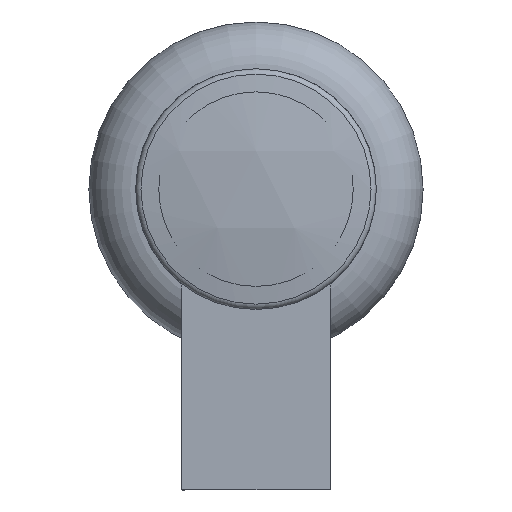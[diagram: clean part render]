
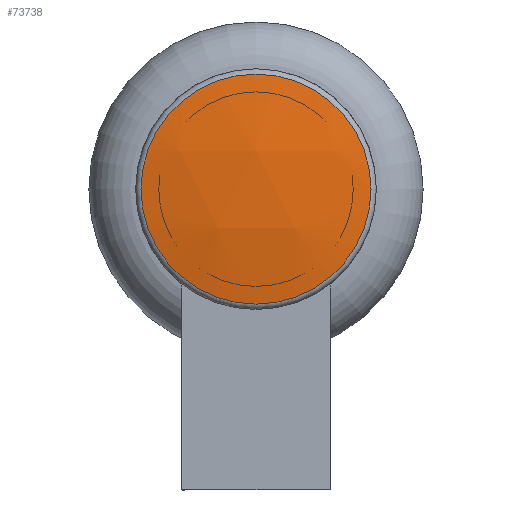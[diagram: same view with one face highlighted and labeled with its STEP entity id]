
A CAD part, front view. The second image highlights one B-rep face of the part: STEP entity #73738.
In plain terms, the highlighted spherical face has radius 168.893 mm.
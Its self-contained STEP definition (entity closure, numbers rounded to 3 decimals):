
#2037=SPHERICAL_SURFACE('',#79982,168.893);
#9423=FACE_OUTER_BOUND('',#13500,.T.);
#13500=EDGE_LOOP('',(#56779));
#31763=CIRCLE('',#79978,34.407);
#34969=VERTEX_POINT('',#110138);
#43017=EDGE_CURVE('',#34969,#34969,#31763,.T.);
#56779=ORIENTED_EDGE('',*,*,#43017,.F.);
#73738=ADVANCED_FACE('',(#9423),#2037,.T.);
#79978=AXIS2_PLACEMENT_3D('',#110140,#90325,#90326);
#79982=AXIS2_PLACEMENT_3D('',#110146,#90334,#90335);
#90325=DIRECTION('center_axis',(1.,0.,0.));
#90326=DIRECTION('ref_axis',(0.,0.,-1.));
#90334=DIRECTION('center_axis',(0.,0.,1.));
#90335=DIRECTION('ref_axis',(-1.,-0.001,0.));
#110138=CARTESIAN_POINT('',(3.542,0.,34.407));
#110140=CARTESIAN_POINT('Origin',(3.542,0.,
0.));
#110146=CARTESIAN_POINT('Origin',(168.893,0.,0.));
